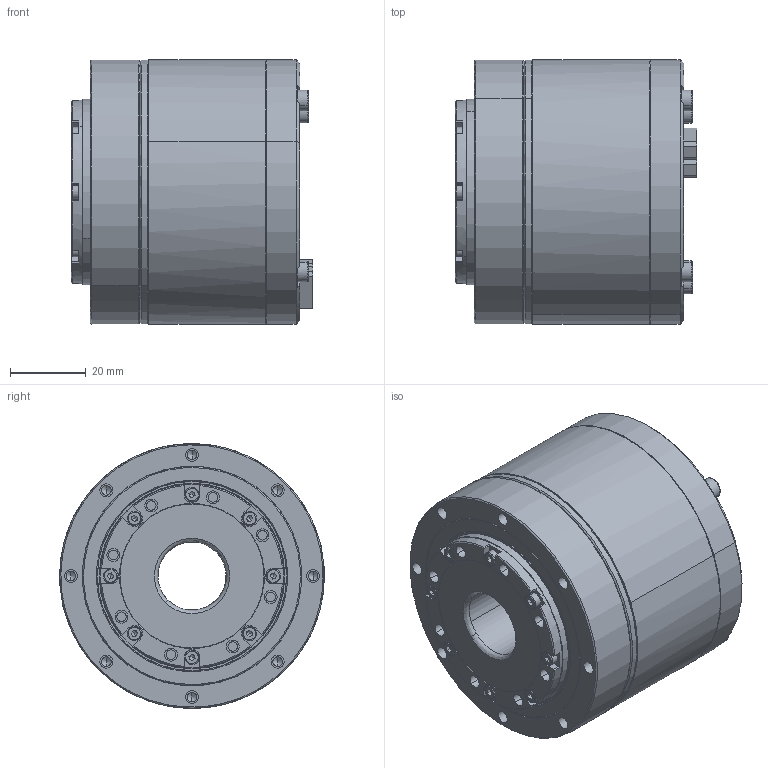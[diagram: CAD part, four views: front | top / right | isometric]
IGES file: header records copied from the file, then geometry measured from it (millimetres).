
Start section: SolidWorks IGES file using analytic representation for surfaces
Global section: file name: 89HG:\李鸿彬\00 官网需更新模型\00官网需更新模型 源文件\官网更新3D\I型\eRob70F 扁平型\eRob70F 扁平型 不带刹车（V3）\eRob70F××I-F-XX-18CX_V3_MC2A.BX.XX\eRob70F××I-F-XX-18CX_V3_MC2A.BX.XX.IGS; native system: SolidWorks 2021; preprocessor: SolidWorks 2021; author: ZERO; date: 250402.145130; units: millimetre
Bounding box: 63.8 x 69.93 x 70 mm (x, y, z)
Volume: 202337.5 mm3; surface area: 31046.5 mm2
Topology: 1 solids, 1 shells, 2216 faces, 5933 edges, 3844 vertices
Faces by surface type: plane 1587, revolution 375, bspline 254
